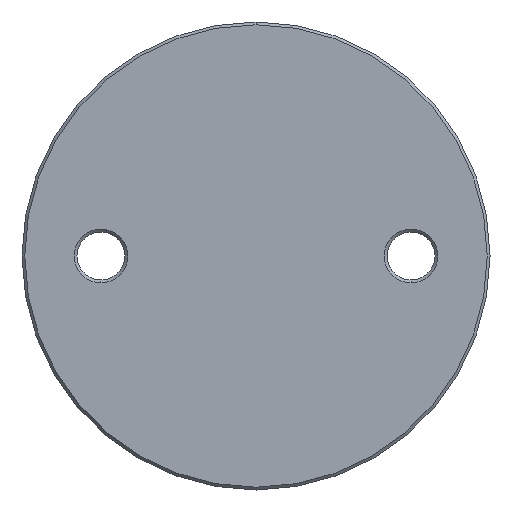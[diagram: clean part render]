
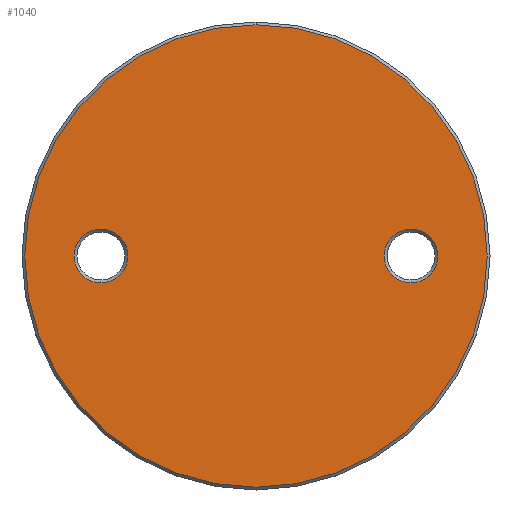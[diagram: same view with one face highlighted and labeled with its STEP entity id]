
A CAD part, front view. The second image highlights one B-rep face of the part: STEP entity #1040.
In plain terms, the highlighted planar face has unit normal (0, -1, 0).
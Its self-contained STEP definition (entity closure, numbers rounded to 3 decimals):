
#107 = DIRECTION ( 'NONE',  ( 0., -1., 0. ) ) ;
#118 = VERTEX_POINT ( 'NONE', #1215 ) ;
#174 = CIRCLE ( 'NONE', #2522, 41. ) ;
#188 = CARTESIAN_POINT ( 'NONE',  ( 27.5, -3., -4.75 ) ) ;
#245 = AXIS2_PLACEMENT_3D ( 'NONE', #3627, #593, #928 ) ;
#285 = DIRECTION ( 'NONE',  ( 0., 0., -1. ) ) ;
#296 = VERTEX_POINT ( 'NONE', #2000 ) ;
#327 = EDGE_CURVE ( 'NONE', #118, #1668, #3187, .T. ) ;
#368 = DIRECTION ( 'NONE',  ( 0., 0., -1. ) ) ;
#391 = ORIENTED_EDGE ( 'NONE', *, *, #3680, .T. ) ;
#466 = DIRECTION ( 'NONE',  ( 0., -1., 0. ) ) ;
#542 = DIRECTION ( 'NONE',  ( 0., 1., 0. ) ) ;
#593 = DIRECTION ( 'NONE',  ( 0., 1., 0. ) ) ;
#682 = VERTEX_POINT ( 'NONE', #1183 ) ;
#752 = EDGE_CURVE ( 'NONE', #296, #4230, #4362, .T. ) ;
#764 = FACE_OUTER_BOUND ( 'NONE', #4134, .T. ) ;
#819 = CIRCLE ( 'NONE', #4209, 4.75 ) ;
#864 = AXIS2_PLACEMENT_3D ( 'NONE', #3911, #542, #2846 ) ;
#918 = CARTESIAN_POINT ( 'NONE',  ( 27.5, -3., 0. ) ) ;
#928 = DIRECTION ( 'NONE',  ( 0., 0., -1. ) ) ;
#988 = DIRECTION ( 'NONE',  ( 0., -1., 0. ) ) ;
#991 = EDGE_LOOP ( 'NONE', ( #391, #4293 ) ) ;
#1040 = ADVANCED_FACE ( 'NONE', ( #2404, #2294, #764 ), #2456, .T. ) ;
#1183 = CARTESIAN_POINT ( 'NONE',  ( 0., -3., 41. ) ) ;
#1215 = CARTESIAN_POINT ( 'NONE',  ( 27.5, -3., 4.75 ) ) ;
#1326 = VERTEX_POINT ( 'NONE', #2579 ) ;
#1443 = CARTESIAN_POINT ( 'NONE',  ( -27.5, -3., -4.75 ) ) ;
#1541 = AXIS2_PLACEMENT_3D ( 'NONE', #3018, #988, #368 ) ;
#1668 = VERTEX_POINT ( 'NONE', #188 ) ;
#2000 = CARTESIAN_POINT ( 'NONE',  ( -27.5, -3., 4.75 ) ) ;
#2238 = EDGE_LOOP ( 'NONE', ( #2320, #2425 ) ) ;
#2258 = EDGE_CURVE ( 'NONE', #1668, #118, #819, .T. ) ;
#2294 = FACE_BOUND ( 'NONE', #991, .T. ) ;
#2301 = DIRECTION ( 'NONE',  ( 0., 1., 0. ) ) ;
#2316 = CIRCLE ( 'NONE', #1541, 41. ) ;
#2320 = ORIENTED_EDGE ( 'NONE', *, *, #2258, .T. ) ;
#2404 = FACE_BOUND ( 'NONE', #2238, .T. ) ;
#2425 = ORIENTED_EDGE ( 'NONE', *, *, #327, .T. ) ;
#2456 = PLANE ( 'NONE',  #3862 ) ;
#2522 = AXIS2_PLACEMENT_3D ( 'NONE', #4159, #107, #2817 ) ;
#2579 = CARTESIAN_POINT ( 'NONE',  ( 0., -3., -41. ) ) ;
#2746 = CARTESIAN_POINT ( 'NONE',  ( 0., -3., 41.5 ) ) ;
#2792 = EDGE_CURVE ( 'NONE', #1326, #682, #174, .T. ) ;
#2817 = DIRECTION ( 'NONE',  ( 0., 0., -1. ) ) ;
#2827 = ORIENTED_EDGE ( 'NONE', *, *, #3742, .T. ) ;
#2846 = DIRECTION ( 'NONE',  ( 0., 0., -1. ) ) ;
#3018 = CARTESIAN_POINT ( 'NONE',  ( 0., -3., 0. ) ) ;
#3121 = DIRECTION ( 'NONE',  ( 0., 0., -1. ) ) ;
#3187 = CIRCLE ( 'NONE', #3832, 4.75 ) ;
#3293 = DIRECTION ( 'NONE',  ( 0., 1., 0. ) ) ;
#3524 = CIRCLE ( 'NONE', #864, 4.75 ) ;
#3627 = CARTESIAN_POINT ( 'NONE',  ( -27.5, -3., 0. ) ) ;
#3680 = EDGE_CURVE ( 'NONE', #4230, #296, #3524, .T. ) ;
#3742 = EDGE_CURVE ( 'NONE', #682, #1326, #2316, .T. ) ;
#3783 = ORIENTED_EDGE ( 'NONE', *, *, #2792, .T. ) ;
#3832 = AXIS2_PLACEMENT_3D ( 'NONE', #918, #3293, #3985 ) ;
#3862 = AXIS2_PLACEMENT_3D ( 'NONE', #2746, #466, #3121 ) ;
#3911 = CARTESIAN_POINT ( 'NONE',  ( -27.5, -3., 0. ) ) ;
#3985 = DIRECTION ( 'NONE',  ( 0., 0., -1. ) ) ;
#4134 = EDGE_LOOP ( 'NONE', ( #2827, #3783 ) ) ;
#4159 = CARTESIAN_POINT ( 'NONE',  ( 0., -3., 0. ) ) ;
#4209 = AXIS2_PLACEMENT_3D ( 'NONE', #4338, #2301, #285 ) ;
#4230 = VERTEX_POINT ( 'NONE', #1443 ) ;
#4293 = ORIENTED_EDGE ( 'NONE', *, *, #752, .T. ) ;
#4338 = CARTESIAN_POINT ( 'NONE',  ( 27.5, -3., 0. ) ) ;
#4362 = CIRCLE ( 'NONE', #245, 4.75 ) ;
